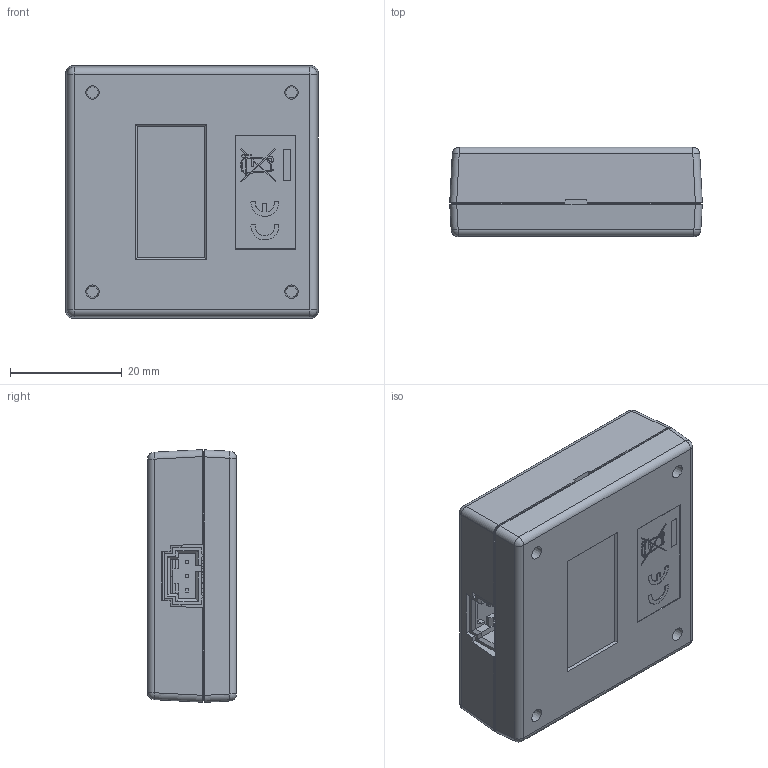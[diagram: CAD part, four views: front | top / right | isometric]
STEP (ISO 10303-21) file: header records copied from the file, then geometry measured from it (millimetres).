
FILE_DESCRIPTION(/* description */ ('Alibre Inc.'),/* implementation_level */ '2;1');
FILE_NAME(/* name */ 'export0',/* time_stamp */ '2018-08-08T13:30:55-06:00',/* author */ (''),/* organization */ (''),/* preprocessor_version */ 'ST-DEVELOPER v17',/* originating_system */ 'Alibre',/* authorisation */ '');
FILE_SCHEMA (('CONFIG_CONTROL_DESIGN'));
Length unit declared in the file: centimetre
Products named in the file (87): ID_1; ID_2; ID_3; ID_4; ID_5; ID_6; ID_7; ID_8; ID_9; ID_10; ID_11; ID_12; ID_13; ID_14; ID_15; ID_16; ID_17; ID_18; ID_19; ID_20; ID_21; ID_22; ID_23; ID_24; ID_25; ID_26; ID_27; ID_28; ID_29; ID_30; ID_31; ID_32; ID_33
Bounding box: 45.11 x 15.86 x 45.12 mm (x, y, z)
Volume: 14399.2 mm3; surface area: 20361.7 mm2
Topology: 112 solids, 112 shells, 2904 faces, 7571 edges, 4899 vertices
Faces by surface type: plane 2005, cylinder 626, bspline 205, revolution 32, cone 28, sphere 8
Full cylindrical faces by diameter (mm): 0.6 x5, 0.965 x3, 1.321 x8, 3.099 x4, 3.175 x4
Entity records: 62159 total; most frequent: CARTESIAN_POINT 13496, ORIENTED_EDGE 8594, DIRECTION 6391, EDGE_CURVE 4297, VECTOR 3190, LINE 3190, VERTEX_POINT 2831, AXIS2_PLACEMENT_3D 2122
